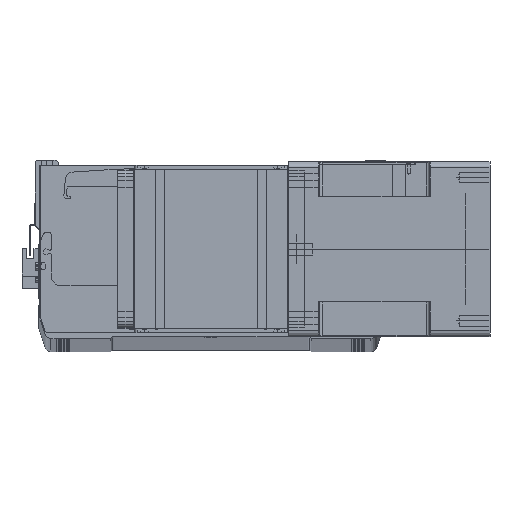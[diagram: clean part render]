
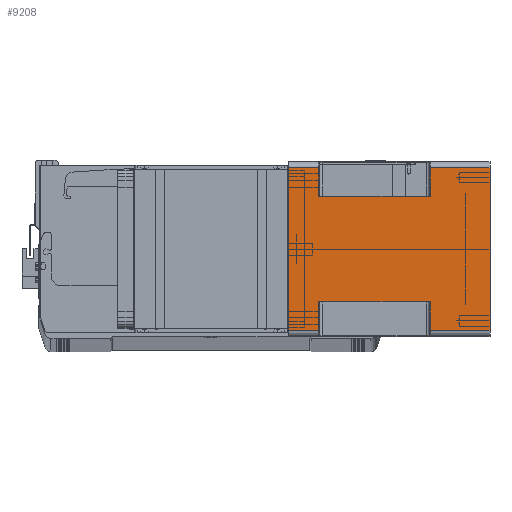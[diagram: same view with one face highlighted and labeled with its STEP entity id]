
A CAD part, top view. The second image highlights one B-rep face of the part: STEP entity #9208.
In plain terms, the highlighted planar face has unit normal (0, 0, 1) as drawn and (1, 0, 0) by its records, which use the part's own axes.
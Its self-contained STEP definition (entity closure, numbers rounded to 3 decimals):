
#367 = ORIENTED_EDGE ( 'NONE', *, *, #20441, .T. ) ;
#1474 = CARTESIAN_POINT ( 'NONE',  ( 71., 66., -164. ) ) ;
#1873 = ORIENTED_EDGE ( 'NONE', *, *, #8025, .F. ) ;
#2875 = DIRECTION ( 'NONE',  ( 0., 0., 1. ) ) ;
#3458 = CARTESIAN_POINT ( 'NONE',  ( 71., 66., -164. ) ) ;
#4979 = VECTOR ( 'NONE', #2875, 1000. ) ;
#5154 = LINE ( 'NONE', #30645, #17008 ) ;
#5445 = ORIENTED_EDGE ( 'NONE', *, *, #15544, .T. ) ;
#5579 = EDGE_CURVE ( 'NONE', #31632, #41535, #6029, .T. ) ;
#5708 = CARTESIAN_POINT ( 'NONE',  ( 71., -66., -115.5 ) ) ;
#5813 = CARTESIAN_POINT ( 'NONE',  ( 71., -66., 0. ) ) ;
#6029 = LINE ( 'NONE', #12498, #4979 ) ;
#6102 = DIRECTION ( 'NONE',  ( 0., 0., -1. ) ) ;
#6733 = DIRECTION ( 'NONE',  ( 0., 0., 1. ) ) ;
#7045 = ORIENTED_EDGE ( 'NONE', *, *, #25566, .F. ) ;
#7518 = CARTESIAN_POINT ( 'NONE',  ( 71., 66., -24.5 ) ) ;
#7673 = CARTESIAN_POINT ( 'NONE',  ( 71., -66., 0. ) ) ;
#7677 = DIRECTION ( 'NONE',  ( 0., 1., 0. ) ) ;
#7966 = VECTOR ( 'NONE', #42037, 1000. ) ;
#8025 = EDGE_CURVE ( 'NONE', #30313, #14852, #10087, .T. ) ;
#8142 = EDGE_CURVE ( 'NONE', #39754, #25692, #26531, .T. ) ;
#8366 = VERTEX_POINT ( 'NONE', #20808 ) ;
#8687 = ORIENTED_EDGE ( 'NONE', *, *, #13762, .T. ) ;
#9208 = ADVANCED_FACE ( 'NONE', ( #39145 ), #32513, .T. ) ;
#9680 = ORIENTED_EDGE ( 'NONE', *, *, #32074, .F. ) ;
#10087 = LINE ( 'NONE', #34224, #25991 ) ;
#10784 = ORIENTED_EDGE ( 'NONE', *, *, #8142, .T. ) ;
#12498 = CARTESIAN_POINT ( 'NONE',  ( 71., -66., -164. ) ) ;
#13025 = VECTOR ( 'NONE', #31959, 1000. ) ;
#13694 = EDGE_CURVE ( 'NONE', #15266, #8366, #5154, .T. ) ;
#13758 = CARTESIAN_POINT ( 'NONE',  ( 71., -43., -164. ) ) ;
#13762 = EDGE_CURVE ( 'NONE', #31632, #18491, #15979, .T. ) ;
#14433 = VERTEX_POINT ( 'NONE', #25707 ) ;
#14852 = VERTEX_POINT ( 'NONE', #15345 ) ;
#14968 = ORIENTED_EDGE ( 'NONE', *, *, #13694, .T. ) ;
#15266 = VERTEX_POINT ( 'NONE', #36173 ) ;
#15345 = CARTESIAN_POINT ( 'NONE',  ( 71., -66., -115.5 ) ) ;
#15407 = LINE ( 'NONE', #5813, #33405 ) ;
#15544 = EDGE_CURVE ( 'NONE', #25692, #18070, #22907, .T. ) ;
#15979 = LINE ( 'NONE', #33845, #30886 ) ;
#17008 = VECTOR ( 'NONE', #40264, 1000. ) ;
#17246 = CARTESIAN_POINT ( 'NONE',  ( 71., -66., -24.5 ) ) ;
#18070 = VERTEX_POINT ( 'NONE', #20765 ) ;
#18256 = CARTESIAN_POINT ( 'NONE',  ( 71., -66., -24.5 ) ) ;
#18491 = VERTEX_POINT ( 'NONE', #27592 ) ;
#18728 = ORIENTED_EDGE ( 'NONE', *, *, #19016, .T. ) ;
#19016 = EDGE_CURVE ( 'NONE', #34420, #14852, #21861, .T. ) ;
#20001 = ORIENTED_EDGE ( 'NONE', *, *, #5579, .F. ) ;
#20441 = EDGE_CURVE ( 'NONE', #30313, #14433, #21774, .T. ) ;
#20765 = CARTESIAN_POINT ( 'NONE',  ( 71., 66., 0. ) ) ;
#20808 = CARTESIAN_POINT ( 'NONE',  ( 71., 43., -115.5 ) ) ;
#21142 = DIRECTION ( 'NONE',  ( 0., 0., 1. ) ) ;
#21353 = VECTOR ( 'NONE', #6102, 1000. ) ;
#21774 = LINE ( 'NONE', #28217, #13025 ) ;
#21856 = LINE ( 'NONE', #1474, #42409 ) ;
#21861 = LINE ( 'NONE', #5708, #7966 ) ;
#22620 = CARTESIAN_POINT ( 'NONE',  ( 71., 43., -164. ) ) ;
#22741 = DIRECTION ( 'NONE',  ( 1., 0., 0. ) ) ;
#22907 = LINE ( 'NONE', #3458, #41392 ) ;
#24302 = DIRECTION ( 'NONE',  ( 0., 0., 1. ) ) ;
#24793 = CARTESIAN_POINT ( 'NONE',  ( 71., -66., -164. ) ) ;
#24966 = VECTOR ( 'NONE', #25162, 1000. ) ;
#25162 = DIRECTION ( 'NONE',  ( 0., 1., 0. ) ) ;
#25363 = VECTOR ( 'NONE', #36591, 1000. ) ;
#25566 = EDGE_CURVE ( 'NONE', #39754, #8366, #30071, .T. ) ;
#25692 = VERTEX_POINT ( 'NONE', #7518 ) ;
#25707 = CARTESIAN_POINT ( 'NONE',  ( 71., 66., -164. ) ) ;
#25724 = ORIENTED_EDGE ( 'NONE', *, *, #31344, .T. ) ;
#25991 = VECTOR ( 'NONE', #21142, 1000. ) ;
#26531 = LINE ( 'NONE', #18256, #24966 ) ;
#27016 = CARTESIAN_POINT ( 'NONE',  ( 71., 43., -24.5 ) ) ;
#27592 = CARTESIAN_POINT ( 'NONE',  ( 71., -43., -24.5 ) ) ;
#28217 = CARTESIAN_POINT ( 'NONE',  ( 71., -66., -164. ) ) ;
#29657 = AXIS2_PLACEMENT_3D ( 'NONE', #42546, #22741, #32653 ) ;
#29789 = EDGE_LOOP ( 'NONE', ( #9680, #18728, #1873, #367, #25724, #14968, #7045, #10784, #5445, #38501, #20001, #8687 ) ) ;
#30071 = LINE ( 'NONE', #22620, #21353 ) ;
#30313 = VERTEX_POINT ( 'NONE', #24793 ) ;
#30645 = CARTESIAN_POINT ( 'NONE',  ( 71., 43., -115.5 ) ) ;
#30886 = VECTOR ( 'NONE', #7677, 1000. ) ;
#31344 = EDGE_CURVE ( 'NONE', #14433, #15266, #21856, .T. ) ;
#31632 = VERTEX_POINT ( 'NONE', #17246 ) ;
#31959 = DIRECTION ( 'NONE',  ( 0., 1., 0. ) ) ;
#32074 = EDGE_CURVE ( 'NONE', #34420, #18491, #37648, .T. ) ;
#32513 = PLANE ( 'NONE',  #29657 ) ;
#32653 = DIRECTION ( 'NONE',  ( 0., 1., 0. ) ) ;
#33405 = VECTOR ( 'NONE', #36267, 1000. ) ;
#33845 = CARTESIAN_POINT ( 'NONE',  ( 71., -43., -24.5 ) ) ;
#33948 = EDGE_CURVE ( 'NONE', #41535, #18070, #15407, .T. ) ;
#34224 = CARTESIAN_POINT ( 'NONE',  ( 71., -66., -164. ) ) ;
#34420 = VERTEX_POINT ( 'NONE', #35076 ) ;
#35076 = CARTESIAN_POINT ( 'NONE',  ( 71., -43., -115.5 ) ) ;
#36173 = CARTESIAN_POINT ( 'NONE',  ( 71., 66., -115.5 ) ) ;
#36267 = DIRECTION ( 'NONE',  ( 0., 1., 0. ) ) ;
#36591 = DIRECTION ( 'NONE',  ( 0., 0., 1. ) ) ;
#37648 = LINE ( 'NONE', #13758, #25363 ) ;
#38501 = ORIENTED_EDGE ( 'NONE', *, *, #33948, .F. ) ;
#39145 = FACE_OUTER_BOUND ( 'NONE', #29789, .T. ) ;
#39754 = VERTEX_POINT ( 'NONE', #27016 ) ;
#40264 = DIRECTION ( 'NONE',  ( 0., -1., 0. ) ) ;
#41392 = VECTOR ( 'NONE', #6733, 1000. ) ;
#41535 = VERTEX_POINT ( 'NONE', #7673 ) ;
#42037 = DIRECTION ( 'NONE',  ( 0., -1., 0. ) ) ;
#42409 = VECTOR ( 'NONE', #24302, 1000. ) ;
#42546 = CARTESIAN_POINT ( 'NONE',  ( 71., -66., -164. ) ) ;
